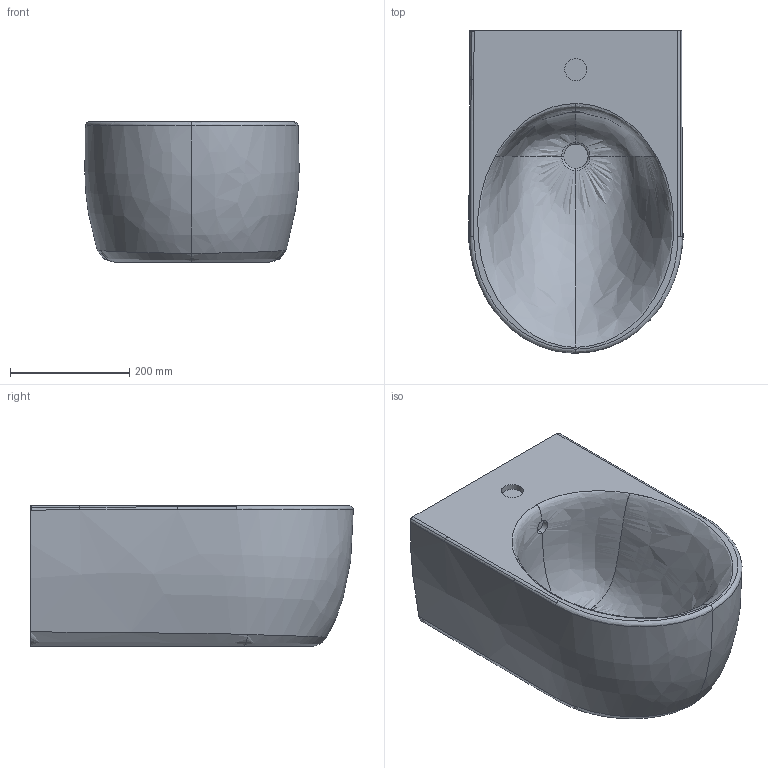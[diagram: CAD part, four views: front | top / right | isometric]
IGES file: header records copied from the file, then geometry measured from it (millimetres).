
Global section: file name: 234000000; native system: Autodesk Inventor 2018; preprocessor: unknown; author: JANAN; date: 20200529.125529; units: millimetre
Bounding box: 358.91 x 540.11 x 235 mm (x, y, z)
Volume: 28140972.9 mm3; surface area: 785806.1 mm2
Topology: 1 solids, 1 shells, 46 faces, 162 edges, 124 vertices
Faces by surface type: bspline 46
